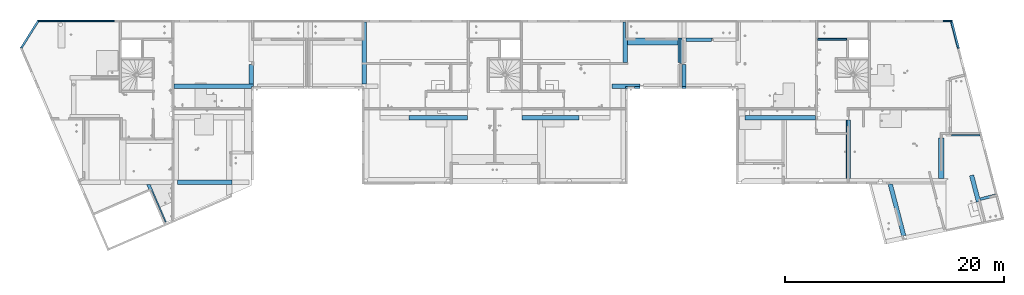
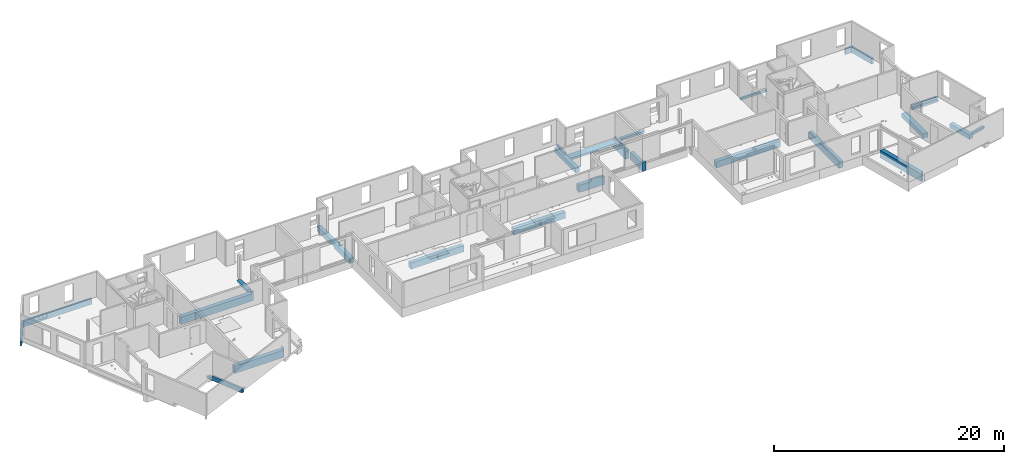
# One storey, part 2 of 34: 26 beams.
"""IFC2X3 building model written with IfcOpenShell, lengths in centimetres."""

from ifc_helpers import new_model, entity, si_unit, converted_unit, derived_unit, direction, frame, frame_2d, origin, origin_2d_with_axis, place, context, subcontext, project, spatial, polyline, rectangle, circle, outline, extrude, boolean, clip, halfspace, bounded_halfspace, faceted_brep, source, transform, mapped, material, material_list, type_object, type_shapes, element, save


model = new_model("IFC2X3")

# Units and contexts
model_context = context("Model", 3, precision=0.001, world=origin(), true_north=direction((6.12303176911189e-17, 1.0)))
body_context = subcontext(model_context, "Body", "Model", "MODEL_VIEW")
ifc_project = project(units=[si_unit("LENGTHUNIT", "METRE", prefix="CENTI"), si_unit("AREAUNIT", "SQUARE_METRE"), si_unit("VOLUMEUNIT", "CUBIC_METRE"), converted_unit("PLANEANGLEUNIT", "DEGREE", entity("IfcRatioMeasure", 0.0174532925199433), si_unit("PLANEANGLEUNIT", "RADIAN"), dimensions=[0, 0, 0, 0, 0, 0, 0]), si_unit("MASSUNIT", "GRAM", prefix="KILO"), derived_unit("MASSDENSITYUNIT", [(si_unit("MASSUNIT", "GRAM", prefix="KILO"), 1), (si_unit("LENGTHUNIT", "METRE"), -3)]), si_unit("TIMEUNIT", "SECOND"), si_unit("FREQUENCYUNIT", "HERTZ"), si_unit("THERMODYNAMICTEMPERATUREUNIT", "DEGREE_CELSIUS"), derived_unit("THERMALTRANSMITTANCEUNIT", [(si_unit("MASSUNIT", "GRAM", prefix="KILO"), 1), (si_unit("THERMODYNAMICTEMPERATUREUNIT", "KELVIN"), -1), (si_unit("TIMEUNIT", "SECOND"), -3)]), derived_unit("VOLUMETRICFLOWRATEUNIT", [(si_unit("LENGTHUNIT", "METRE"), 3), (si_unit("TIMEUNIT", "SECOND"), -1)]), si_unit("ELECTRICCURRENTUNIT", "AMPERE"), si_unit("ELECTRICVOLTAGEUNIT", "VOLT"), si_unit("POWERUNIT", "WATT"), si_unit("FORCEUNIT", "NEWTON"), si_unit("ILLUMINANCEUNIT", "LUX"), si_unit("LUMINOUSFLUXUNIT", "LUMEN"), si_unit("LUMINOUSINTENSITYUNIT", "CANDELA"), derived_unit("USERDEFINED", [(si_unit("MASSUNIT", "GRAM", prefix="KILO"), -1), (si_unit("LENGTHUNIT", "METRE"), -2), (si_unit("TIMEUNIT", "SECOND"), 3), (si_unit("LUMINOUSFLUXUNIT", "LUMEN"), 1)]), derived_unit("LINEARVELOCITYUNIT", [(si_unit("LENGTHUNIT", "METRE"), 1), (si_unit("TIMEUNIT", "SECOND"), -1)]), si_unit("PRESSUREUNIT", "PASCAL"), derived_unit("USERDEFINED", [(si_unit("LENGTHUNIT", "METRE"), -2), (si_unit("MASSUNIT", "GRAM", prefix="KILO"), 1), (si_unit("TIMEUNIT", "SECOND"), -2)])], contexts=[model_context])

# Site, building, storey
site_placement = place(None, origin())
site = spatial("IfcSite", under=ifc_project, at=site_placement, Name="Default", CompositionType="ELEMENT")
building_placement = place(site_placement, origin())
building = spatial("IfcBuilding", under=site, at=building_placement, Name="CAGE 03", CompositionType="ELEMENT")
storey_placement = place(building_placement, frame((0.0, 0.0, 340.0)))
storey = spatial("IfcBuildingStorey", under=building, at=storey_placement, Name="R+1", CompositionType="ELEMENT", Elevation=340.0)

# Beams
ifc_material_1 = material(Name="Béton, C25/30")
beam_type_1 = type_object("IfcBeamType", Name="BBGO-Poutre rect:18x62ht", PredefinedType="BEAM")
beam_1_placement = place(storey_placement, frame((3117.36582014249, 5275.66066607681, -62.0)))
element("IfcBeam", 1, at=beam_1_placement, inside=storey, type_object=beam_type_1, material=ifc_material_1, Name="BBGO-Poutre rect:18x62ht", ObjectType="BBGO-Poutre rect:18x62ht", context=body_context, shape_type="Brep", body=[
    faceted_brep([(489.0, 0.0, 62.0), (489.0, 0.0, 0.0), (489.0, 18.0, 0.0), (489.0, 18.0, 62.0), (40.0, 0.0, 62.0), (40.0, 0.0, 39.0), (40.0, 0.0, 17.0), (0.0, 0.0, 17.0), (0.0, 0.0, 0.0), (0.0, 18.0, 0.0), (0.0, 18.0, 62.0), (0.0, 9.0, 62.0), (40.0, 9.0, 62.0), (40.0, 9.0, 17.0), (0.0, 9.0, 17.0)], [[[0, 1, 2, 3]], [[1, 0, 4, 5, 6, 7, 8]], [[2, 1, 8, 9]], [[3, 2, 9, 10]], [[0, 3, 10, 11, 12, 4]], [[13, 12, 11, 14]], [[12, 13, 6, 5, 4]], [[13, 14, 7, 6]], [[10, 9, 8, 7, 14, 11]]]),
])
beam_2_placement = place(storey_placement, frame((2747.18514760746, 5035.35608984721, -62.0), z_axis=(0.0, 0.0, 1.0), x_axis=(0.531791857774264, 0.846875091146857, 0.0)))
element("IfcBeam", 2, at=beam_2_placement, inside=storey, type_object=beam_type_1, material=ifc_material_1, Name="BBGO-Poutre rect:18x62ht", ObjectType="BBGO-Poutre rect:18x62ht", context=body_context, shape_type="Brep", body=[
    faceted_brep([(304.406446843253, -17.0403410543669, 62.0), (304.406446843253, -17.0403410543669, 0.0), (304.406446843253, 0.959658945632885, 0.0), (304.406446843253, 0.959658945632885, 62.0), (294.454865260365, -17.0403410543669, 62.0), (10.7004146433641, -17.0403410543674, 62.0), (10.7004146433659, -17.0403410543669, 39.0), (12.831279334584, -17.0403410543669, 39.0), (12.8312793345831, -17.0403410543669, 0.0), (294.454865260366, -17.0403410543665, 0.0), (1.52825065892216, 0.959658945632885, 0.0), (1.52825065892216, 0.959658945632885, 62.0), (23.0603727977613, 0.959658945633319, 62.0), (11.8134355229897, -15.4194313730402, 62.0), (11.8134355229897, -15.4194313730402, 39.0)], [[[0, 1, 2, 3]], [[1, 0, 4, 5, 6, 7, 8, 9]], [[2, 1, 9, 8, 10]], [[3, 2, 10, 11, 12]], [[0, 3, 12, 11, 13, 5, 4]], [[5, 13, 14, 6]], [[8, 7, 14, 13, 11, 10]], [[14, 7, 6]]]),
])
beam_3_placement = place(storey_placement, frame((2908.25330623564, 5275.66066607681, -62.0)))
element("IfcBeam", 3, at=beam_3_placement, inside=storey, type_object=beam_type_1, material=ifc_material_1, Name="BBGO-Poutre rect:18x62ht", ObjectType="BBGO-Poutre rect:18x62ht", context=body_context, shape_type="Brep", body=[
    faceted_brep([(9.95158158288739, 0.0, 62.0), (9.95158158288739, 0.0, 39.0), (9.95158158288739, 0.0, 0.0), (209.112513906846, 0.0, 0.0), (209.112513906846, 0.0, 17.0), (187.112513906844, 0.0, 17.0), (169.112513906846, 0.0, 17.0), (169.112513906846, 0.0, 62.0), (0.0, 18.0, 0.0), (209.112513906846, 18.0, 0.0), (15.2437516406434, 8.42774656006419, 0.0), (0.0, 18.0, 62.0), (21.2546102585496, 18.0, 62.0), (209.112513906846, 18.0, 62.0), (15.2437516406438, 8.42774656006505, 62.0), (169.112513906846, 9.0, 62.0), (209.112513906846, 9.0, 62.0), (169.112513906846, 9.0, 17.0), (209.112513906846, 9.0, 17.0)], [[[0, 1, 2, 3, 4, 5, 6, 7]], [[8, 9, 3, 2, 10]], [[9, 8, 11, 12, 13]], [[13, 12, 11, 14, 0, 7, 15, 16]], [[10, 14, 11, 8]], [[14, 10, 2, 1, 0]], [[15, 17, 18, 16]], [[18, 17, 6, 5, 4]], [[17, 15, 7, 6]], [[3, 9, 13, 16, 18, 4]]]),
])
beam_4_placement = place(storey_placement, frame((11167.3658201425, 5284.66066607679, 0.0)))
element("IfcBeam", 4, at=beam_4_placement, inside=storey, type_object=beam_type_1, material=ifc_material_1, Name="BBGO-Poutre rect:18x62ht", ObjectType="BBGO-Poutre rect:18x62ht", context=body_context, shape_type="SweptSolid", body=[
    extrude(rectangle(XDim=62.0, YDim=17.9999999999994, at=frame_2d((0.0, 4.33431068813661e-13), x_axis=(1.0, 0.0))), frame((9.0, 0.0, -31.0), z_axis=(1.0, 0.0, 0.0), x_axis=(0.0, 0.0, -1.0)), (0.0, 0.0, 1.0), 77.4550760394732),
])
beam_5_placement = place(storey_placement, frame((11245.1129463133, 5291.38654886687, 0.0), z_axis=(0.0, 0.0, 1.0), x_axis=(0.252679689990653, -0.967549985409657, 0.0)))
element("IfcBeam", 5, at=beam_5_placement, inside=storey, type_object=beam_type_1, material=ifc_material_1, Name="BBGO-Poutre rect:18x62ht", ObjectType="BBGO-Poutre rect:18x62ht", context=body_context, shape_type="Clipping", body=[
    clip(clip(clip(extrude(rectangle(XDim=62.0, YDim=17.9999999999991, at=frame_2d((0.0, 8.38440428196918e-13), x_axis=(1.0, 0.0))), frame((0.0, 0.0, -31.0), z_axis=(1.0, 0.0, 0.0), x_axis=(0.0, 0.0, -1.0)), (0.0, 0.0, 1.0), 265.102582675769), bounded_halfspace(frame((17.4158997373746, 4.45176558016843, -31.0), z_axis=(-0.967549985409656, 0.252679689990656, 0.0), x_axis=(0.0, 0.0, -1.0)), False, frame((0.0, 0.0, -31.0), z_axis=(1.0, 0.0, 0.0), x_axis=(0.0, 0.0, -1.0)), polyline([(-31.0, 4.45176558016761), (31.0, 4.45176558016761), (31.0, -9.0), (-8.0, -9.0), (-31.0, -9.0), (-31.0, 4.45176558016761)]))), bounded_halfspace(frame((17.4158997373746, 4.45176558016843, 0.0), z_axis=(-0.252679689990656, -0.967549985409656, 0.0), x_axis=(0.0, 0.0, -1.0)), False, frame((0.0, 0.0, -31.0), z_axis=(1.0, 0.0, 0.0), x_axis=(0.0, 0.0, -1.0)), polyline([(31.0, 4.45176558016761), (-31.0, 4.45176558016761), (-31.0, 9.0), (31.0, 9.0), (31.0, 4.45176558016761)]))), halfspace(frame((317.12043482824, 208.184477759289, -395.0), z_axis=(0.967549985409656, -0.252679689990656, 0.0), x_axis=(-0.252679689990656, -0.967549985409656, 0.0)), False)),
])
ifc_material_2 = material(Name="<Unnamed>")
ifc_material_list = material_list([ifc_material_1, ifc_material_2])
beam_type_2 = type_object("IfcBeamType", Name="40x80ht", PredefinedType="BEAM", material=ifc_material_list)
beam_6_placement = place(storey_placement, frame((5870.36582014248, 4708.6606660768, -80.0), z_axis=(0.0, 0.0, 1.0), x_axis=(0.0, 1.0, 0.0)))
element("IfcBeam", 6, at=beam_6_placement, inside=storey, type_object=beam_type_2, material=ifc_material_1, Name="BBGO-Poutre rect:40x80ht", ObjectType="BBGO-Poutre rect:40x80ht", context=body_context, shape_type="Brep", body=[
    faceted_brep([(0.0, 0.0, 0.0), (0.0, -40.0, 0.0), (0.0, -40.0, 57.0), (0.0, -35.0, 57.0), (0.0, 0.0, 57.0), (567.0, -40.0, 0.0), (567.0, -40.0, 57.0), (276.074216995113, -40.0, 0.0), (276.074216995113, -40.0, 14.0), (348.074216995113, -40.0, 14.0), (348.074216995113, -40.0, 0.0), (567.0, 0.0, 0.0), (348.074216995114, 0.0, 0.0), (567.0, 0.0, 57.0), (567.0, 0.0, 55.0), (567.0, 0.0, 35.0), (348.074216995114, 0.0, 14.0), (276.074216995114, 0.0, 14.0), (276.074216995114, 0.0, 0.0), (355.0, 0.0, 57.0), (420.0, 0.0, 57.0)], [[[0, 1, 2, 3, 4]], [[5, 6, 2, 1, 7, 8, 9, 10]], [[11, 5, 10, 12]], [[13, 14, 15, 11, 12, 16, 17, 18, 0, 4, 19, 20]], [[5, 11, 15, 14, 13, 6]], [[2, 6, 13, 20, 19, 4, 3]], [[16, 9, 8, 17]], [[17, 8, 7, 18]], [[9, 16, 12, 10]], [[1, 0, 18, 7]]]),
])
beam_7_placement = place(storey_placement, frame((10683.7671473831, 3821.66066607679, 0.0), z_axis=(0.0, 0.0, 1.0), x_axis=(0.252679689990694, -0.967549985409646, 0.0)))
element("IfcBeam", 7, at=beam_7_placement, inside=storey, type_object=beam_type_2, material=ifc_material_1, Name="BBGO-Poutre rect:40x80ht", ObjectType="BBGO-Poutre rect:40x80ht", context=body_context, shape_type="Clipping", body=[
    clip(clip(clip(extrude(rectangle(XDim=80.0, YDim=40.0000000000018, at=frame_2d((0.0, -8.93507490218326e-13), x_axis=(1.0, 0.0))), frame((20.6153754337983, 0.0, -40.0), z_axis=(1.0, 0.0, 0.0), x_axis=(0.0, 0.0, -1.0)), (0.0, 0.0, 1.0), 513.883798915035), bounded_halfspace(frame((534.499174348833, 0.0, 0.0), z_axis=(0.0521672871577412, 0.998638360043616, 0.0), x_axis=(0.998638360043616, -0.0521672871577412, 0.0)), False, frame((20.6153754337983, 0.0, -40.0), z_axis=(1.0, 0.0, 0.0), x_axis=(0.0, 0.0, -1.0)), polyline([(40.0, 1.04334574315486), (-40.0, 1.04334574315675), (-40.0, 0.0), (40.0, 0.0), (40.0, 1.04334574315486)]))), bounded_halfspace(frame((535.381387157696, 400.270220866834, -80.0), z_axis=(0.998638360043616, -0.0521672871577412, 0.0), x_axis=(-0.0521672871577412, -0.998638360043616, 0.0)), False, frame((20.6153754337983, 0.0, -40.0), z_axis=(1.0, 0.0, 0.0), x_axis=(0.0, 0.0, -1.0)), polyline([(-40.0, 1.04334574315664), (40.0, 1.04334574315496), (40.0, 20.0), (-12.0, 20.0), (-40.0, 20.0), (-40.0, 1.04334574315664)]))), halfspace(frame((157.249539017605, 503.19354589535, 0.0), z_axis=(-0.967549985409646, 0.252679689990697, 0.0), x_axis=(-0.252679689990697, -0.967549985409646, 0.0)), False)),
])
beam_type_3 = type_object("IfcBeamType", Name="BBGO-Poutre rect:40x100ht", PredefinedType="BEAM")
beam_8_placement = place(storey_placement, frame((4184.86582014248, 3791.66066607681, -100.0)))
element("IfcBeam", 8, at=beam_8_placement, inside=storey, type_object=beam_type_3, material=ifc_material_1, Name="BBGO-Poutre rect:40x100ht", ObjectType="BBGO-Poutre rect:40x100ht", context=body_context, shape_type="Brep", body=[
    faceted_brep([(496.499999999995, 40.0, 100.0), (496.499999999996, 0.0, 100.0), (496.499999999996, 0.0, 75.0), (496.499999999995, 40.0, 75.0), (0.0, 0.0, 0.0), (496.499999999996, 0.0, 0.0), (496.499999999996, 0.0, 55.0), (495.499999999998, 0.0, 55.0), (495.499999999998, 0.0, 75.0), (495.499999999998, 0.0, 100.0), (495.499999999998, 0.0, 77.0), (445.499999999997, 0.0, 77.0), (0.0, 0.0, 77.0), (496.499999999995, 40.0, 0.0), (0.0, 40.0, 0.0), (0.0, 40.0, 77.0), (9.49999999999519, 40.0, 77.0), (445.499999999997, 40.0, 77.0), (495.499999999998, 40.0, 77.0), (495.499999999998, 40.0, 100.0), (495.499999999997, 40.0, 75.0), (495.499999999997, 40.0, 55.0), (496.499999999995, 40.0, 55.0)], [[[0, 1, 2, 3]], [[4, 5, 6, 7, 8, 2, 1, 9, 10, 11, 12]], [[13, 5, 4, 14]], [[13, 14, 15, 16, 17, 18, 19, 0, 3, 20, 21, 22]], [[1, 0, 19, 9]], [[14, 4, 12, 15]], [[12, 11, 10, 18, 17, 16, 15]], [[18, 10, 9, 19]], [[21, 7, 6, 22]], [[8, 20, 3, 2]], [[7, 21, 20, 8]], [[5, 13, 22, 6]]]),
])
beam_9_placement = place(storey_placement, frame((4152.36582014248, 4668.66066607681, -100.0)))
element("IfcBeam", 9, at=beam_9_placement, inside=storey, type_object=beam_type_3, material=ifc_material_1, Name="BBGO-Poutre rect:40x100ht", ObjectType="BBGO-Poutre rect:40x100ht", context=body_context, shape_type="Brep", body=[
    faceted_brep([(708.0, 0.0, 100.0), (708.0, 0.0, 77.0), (646.0, 0.0, 77.0), (0.0, 0.0, 77.0), (0.0, 0.0, 0.0), (646.0, 0.0, 0.0), (726.0, 0.0, 0.0), (726.0, 0.0, 100.0), (726.0, 40.0, 0.0), (0.0, 40.0, 0.0), (726.0, 40.0, 77.0), (0.0, 40.0, 77.0), (726.0, 18.0, 100.0), (708.0, 18.0, 100.0), (726.0, 18.0, 77.0), (708.0, 18.0, 77.0)], [[[0, 1, 2, 3, 4, 5, 6, 7]], [[8, 6, 5, 4, 9]], [[10, 8, 9, 11]], [[7, 12, 13, 0]], [[12, 7, 6, 8, 10, 14]], [[1, 15, 14, 10, 11, 3, 2]], [[15, 13, 12, 14]], [[13, 15, 1, 0]], [[4, 3, 11, 9]]]),
])
beam_10_placement = place(storey_placement, frame((8149.36582014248, 4668.6606660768, -100.0)))
element("IfcBeam", 10, at=beam_10_placement, inside=storey, type_object=beam_type_3, material=ifc_material_1, Name="BBGO-Poutre rect:40x100ht", ObjectType="BBGO-Poutre rect:40x100ht", context=body_context, shape_type="Brep", body=[
    faceted_brep([(255.0, 0.0, 0.0), (255.0, 0.0, 88.0), (208.0, 0.0, 88.0), (208.0, 0.0, 100.0), (143.0, 0.0, 100.0), (125.0, 0.0, 100.0), (125.0, 0.0, 77.0), (83.0, 0.0, 77.0), (0.0, 0.0, 77.0), (0.0, 0.0, 0.0), (83.0, 0.0, 0.0), (143.0, 0.0, 0.0), (0.0, 40.0, 0.0), (255.0, 40.0, 0.0), (0.0, 40.0, 77.0), (255.0, 40.0, 77.0), (208.0, 18.0, 100.0), (200.0, 18.0, 100.0), (143.0, 18.0, 100.0), (125.0, 18.0, 100.0), (255.0, 18.0, 77.0), (255.0, 18.0, 88.0), (125.0, 18.0, 77.0), (208.0, 18.0, 88.0)], [[[0, 1, 2, 3, 4, 5, 6, 7, 8, 9, 10, 11]], [[0, 11, 10, 9, 12, 13]], [[13, 12, 14, 15]], [[5, 4, 3, 16, 17, 18, 19]], [[1, 0, 13, 15, 20, 21]], [[9, 8, 14, 12]], [[6, 22, 20, 15, 14, 8, 7]], [[22, 19, 18, 17, 16, 23, 21, 20]], [[19, 22, 6, 5]], [[3, 2, 23, 16]], [[2, 1, 21, 23]]]),
])
beam_type_4 = type_object("IfcBeamType", Name="BBGO-Poutre rect:18x45ht", PredefinedType="BEAM")
beam_11_placement = place(storey_placement, frame((10019.3658201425, 5119.66066607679, 0.0)))
element("IfcBeam", 11, at=beam_11_placement, inside=storey, type_object=beam_type_4, material=ifc_material_1, Name="BBGO-Poutre rect:18x45ht", ObjectType="BBGO-Poutre rect:18x45ht", context=body_context, shape_type="SweptSolid", body=[
    extrude(rectangle(XDim=22.0000000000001, YDim=18.0000000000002, at=frame_2d((2.66453525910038e-14, 8.65973959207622e-13), x_axis=(1.0, 0.0))), frame((9.0, 0.0, -34.0), z_axis=(1.0, 0.0, 0.0), x_axis=(0.0, 0.0, -1.0)), (0.0, 0.0, 1.0), 264.000000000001),
])
beam_type_5 = type_object("IfcBeamType", Name="BBGO-Poutre rect:50x70ht", PredefinedType="BEAM")
beam_12_placement = place(storey_placement, frame((11155.8658201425, 3821.66066607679, 0.0), z_axis=(0.0, 0.0, 1.0), x_axis=(0.0, 1.0, 0.0)))
element("IfcBeam", 12, at=beam_12_placement, inside=storey, type_object=beam_type_5, material=ifc_material_1, Name="BBGO-Poutre rect:50x70ht", ObjectType="BBGO-Poutre rect:50x70ht", context=body_context, shape_type="SweptSolid", body=[
    extrude(rectangle(XDim=47.0000000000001, YDim=49.999999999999, at=origin_2d_with_axis()), frame((25.0, 0.0, -46.5000000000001), z_axis=(1.0, 0.0, 0.0), x_axis=(0.0, 0.0, -1.0)), (0.0, 0.0, 1.0), 369.0),
])
beam_type_6 = type_object("IfcBeamType", Name="BBGO-Poutre rect:25x45ht", PredefinedType="BEAM")
beam_13_placement = place(storey_placement, frame((11491.202088, 3652.53878289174, 0.0), z_axis=(0.0, 0.0, 1.0), x_axis=(0.967549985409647, 0.252679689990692, 0.0)))
element("IfcBeam", 13, at=beam_13_placement, inside=storey, type_object=beam_type_6, material=ifc_material_1, Name="BBGO-Poutre rect:25x45ht", ObjectType="BBGO-Poutre rect:25x45ht", context=body_context, shape_type="SweptSolid", body=[
    extrude(rectangle(XDim=22.0000000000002, YDim=25.0000000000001, at=frame_2d((0.0, 4.2810199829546e-13), x_axis=(1.0, 0.0))), frame((20.0, 0.0, -34.0), z_axis=(1.0, 0.0, 0.0), x_axis=(0.0, 0.0, -1.0)), (0.0, 0.0, 1.0), 147.000000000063),
])
beam_type_7 = type_object("IfcBeamType", Name="BBGO-Poutre rect:40x70ht", PredefinedType="BEAM")
beam_14_placement = place(storey_placement, frame((8252.36582014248, 4904.6606660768, -70.0), z_axis=(0.0, 0.0, 1.0), x_axis=(0.0, 1.0, 0.0)))
element("IfcBeam", 14, at=beam_14_placement, inside=storey, type_object=beam_type_7, material=ifc_material_1, Name="BBGO-Poutre rect:40x70ht", ObjectType="BBGO-Poutre rect:40x70ht", context=body_context, shape_type="Brep", body=[
    faceted_brep([(371.0, -40.0, 0.0), (371.0, -40.0, 25.0), (371.0, -40.0, 45.0), (371.0, -40.0, 70.0), (224.0, -40.0, 70.0), (224.0, -40.0, 47.0), (159.0, -40.0, 47.0), (0.0, -40.0, 47.0), (0.0, -40.0, 0.0), (371.0, 0.0, 0.0), (0.0, 0.0, 0.0), (0.0, 0.0, 47.0), (371.0, 0.0, 47.0), (371.0, -22.0, 70.0), (224.0, -22.0, 70.0), (371.0, -22.0, 47.0), (224.0, -22.0, 47.0)], [[[0, 1, 2, 3, 4, 5, 6, 7, 8]], [[9, 0, 8, 10]], [[9, 10, 11, 12]], [[4, 3, 13, 14]], [[3, 2, 1, 0, 9, 12, 15, 13]], [[10, 8, 7, 11]], [[16, 15, 12, 11, 7, 6, 5]], [[14, 16, 5, 4]], [[15, 16, 14, 13]]]),
])
beam_15_placement = place(storey_placement, frame((11430.6853022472, 3884.26700439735, 0.0), z_axis=(0.0, 0.0, 1.0), x_axis=(0.252679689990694, -0.967549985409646, 0.0)))
element("IfcBeam", 15, at=beam_15_placement, inside=storey, type_object=beam_type_7, material=ifc_material_1, Name="BBGO-Poutre rect:40x70ht", ObjectType="BBGO-Poutre rect:40x70ht", context=body_context, shape_type="SweptSolid", body=[
    extrude(rectangle(XDim=47.0000000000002, YDim=40.0000000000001, at=frame_2d((-2.66453525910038e-14, -1.73017156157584e-12), x_axis=(1.0, 0.0))), frame((9.0, 0.0, -46.5000000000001), z_axis=(1.0, 0.0, 0.0), x_axis=(0.0, 0.0, -1.0)), (0.0, 0.0, 1.0), 247.500000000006),
])
beam_type_8 = type_object("IfcBeamType", Name="BBGO-Poutre rect:65x45ht", PredefinedType="BEAM")
beam_16_placement = place(storey_placement, frame((8292.36582014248, 5063.6606660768, -45.0)))
element("IfcBeam", 16, at=beam_16_placement, inside=storey, type_object=beam_type_8, material=ifc_material_1, Name="BBGO-Poutre rect:65x45ht", ObjectType="BBGO-Poutre rect:65x45ht", context=body_context, shape_type="Brep", body=[
    faceted_brep([(399.0, 0.0, 0.0), (399.0, 0.0, 20.0), (414.0, 0.0, 20.0), (414.0, 0.0, 0.0), (460.0, 0.0, 0.0), (460.0, 0.0, 22.0), (0.0, 0.0, 22.0), (0.0, 0.0, 0.0), (460.0, 65.0, 0.0), (414.0, 65.0, 0.0), (399.0, 65.0, 20.0), (399.0, 65.0, 0.0), (0.0, 65.0, 0.0), (0.0, 65.0, 20.0), (0.0, 65.0, 22.0), (460.0, 65.0, 22.0), (414.0, 65.0, 20.0)], [[[0, 1, 2, 3, 4, 5, 6, 7]], [[8, 4, 3, 9]], [[10, 11, 12, 13, 14, 15, 8, 9, 16]], [[12, 7, 6, 14, 13]], [[4, 8, 15, 5]], [[10, 1, 0, 11]], [[2, 16, 9, 3]], [[1, 10, 16, 2]], [[11, 0, 7, 12]], [[6, 5, 15, 14]]]),
])
beam_type_9 = type_object("IfcBeamType", Name="BBGO-Poutre rect:40x90ht", PredefinedType="BEAM")
beam_17_placement = place(storey_placement, frame((6296.36582014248, 4381.6606660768, -90.0)))
element("IfcBeam", 17, at=beam_17_placement, inside=storey, type_object=beam_type_9, material=ifc_material_1, Name="BBGO-Poutre rect:40x90ht", ObjectType="BBGO-Poutre rect:40x90ht", context=body_context, shape_type="Brep", body=[
    faceted_brep([(275.0, 0.0, 58.0), (275.0, 0.0, 0.0), (325.0, 0.0, 0.0), (395.0, 0.0, 0.0), (535.0, 0.0, 0.0), (535.0, 0.0, 67.0), (395.0, 0.0, 67.0), (325.0, 0.0, 67.0), (0.0, 0.0, 67.0), (0.0, 0.0, 0.0), (265.0, 0.0, 0.0), (265.0, 0.0, 58.0), (275.0, 40.0, 0.0), (535.0, 40.0, 0.0), (275.0, 40.0, 58.0), (265.0, 40.0, 58.0), (265.0, 40.0, 0.0), (0.0, 40.0, 0.0), (0.0, 40.0, 67.0), (535.0, 40.0, 67.0), (535.0, 40.0, 60.0), (535.0, 18.0, 67.0)], [[[0, 1, 2, 3, 4, 5, 6, 7, 8, 9, 10, 11]], [[1, 12, 13, 4, 3, 2]], [[12, 14, 15, 16, 17, 18, 19, 20, 13]], [[0, 14, 12, 1]], [[15, 11, 10, 16]], [[14, 0, 11, 15]], [[16, 10, 9, 17]], [[17, 9, 8, 18]], [[4, 13, 20, 19, 21, 5]], [[8, 7, 6, 5, 21, 19, 18]]]),
])
beam_18_placement = place(storey_placement, frame((7331.36582014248, 4381.6606660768, -90.0)))
element("IfcBeam", 18, at=beam_18_placement, inside=storey, type_object=beam_type_9, material=ifc_material_1, Name="BBGO-Poutre rect:40x90ht", ObjectType="BBGO-Poutre rect:40x90ht", context=body_context, shape_type="Brep", body=[
    faceted_brep([(0.0, 0.0, 0.0), (140.0, 0.0, 0.0), (210.0, 0.0, 0.0), (260.0, 0.0, 0.0), (260.0, 0.0, 58.0), (270.0, 0.0, 58.0), (270.0, 0.0, 0.0), (520.0, 0.0, 0.0), (520.0, 0.0, 67.0), (210.0, 0.0, 67.0), (140.0, 0.0, 67.0), (0.0, 0.0, 67.0), (0.0, 40.0, 0.0), (260.0, 40.0, 0.0), (0.0, 40.0, 60.0), (0.0, 40.0, 67.0), (520.0, 40.0, 67.0), (520.0, 40.0, 0.0), (270.0, 40.0, 0.0), (270.0, 40.0, 58.0), (260.0, 40.0, 58.0), (0.0, 18.0, 67.0)], [[[0, 1, 2, 3, 4, 5, 6, 7, 8, 9, 10, 11]], [[0, 12, 13, 3, 2, 1]], [[13, 12, 14, 15, 16, 17, 18, 19, 20]], [[7, 17, 16, 8]], [[20, 4, 3, 13]], [[5, 19, 18, 6]], [[4, 20, 19, 5]], [[12, 0, 11, 21, 15, 14]], [[7, 6, 18, 17]], [[11, 10, 9, 8, 16, 15, 21]]]),
])
beam_19_placement = place(storey_placement, frame((9324.36582014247, 4401.66066607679, 0.0)))
element("IfcBeam", 19, at=beam_19_placement, inside=storey, type_object=beam_type_9, material=ifc_material_1, Name="BBGO-Poutre rect:40x90ht", ObjectType="BBGO-Poutre rect:40x90ht", context=body_context, shape_type="SweptSolid", body=[
    extrude(rectangle(XDim=67.0000000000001, YDim=40.0000000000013, at=frame_2d((0.0, 4.33431068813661e-13), x_axis=(1.0, 0.0))), frame((40.0, 0.0, -56.5000000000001), z_axis=(1.0, 0.0, 0.0), x_axis=(0.0, 0.0, -1.0)), (0.0, 0.0, 1.0), 646.000000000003),
])
beam_20_placement = place(storey_placement, frame((10306.3658201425, 3821.66066607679, 0.0), z_axis=(0.0, 0.0, 1.0), x_axis=(0.0, 1.0, 0.0)))
element("IfcBeam", 20, at=beam_20_placement, inside=storey, type_object=beam_type_9, material=ifc_material_1, Name="BBGO-Poutre rect:40x90ht", ObjectType="BBGO-Poutre rect:40x90ht", context=body_context, shape_type="CSG", body=[
    boolean("DIFFERENCE", boolean("DIFFERENCE", extrude(outline(polyline([(-23.0, -42.3333333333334), (17.0, -42.3333333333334), (17.0, 17.6666666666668), (6.0, 17.6666666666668), (6.0, 24.6666666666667), (-23.0, 24.6666666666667), (-23.0, -42.3333333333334)])), frame((25.0, 3.0, -47.6666666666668), z_axis=(1.0, 0.0, 0.0), x_axis=(0.0, 1.0, 0.0)), (0.0, 0.0, 1.0), 535.000000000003), extrude(rectangle(XDim=12.0, YDim=38.0, at=frame_2d((0.0, 0.0), x_axis=(0.0, 1.0))), frame((538.48193062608, 20.0, -73.8494765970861), z_axis=(0.0, -1.0, 0.0), x_axis=(-1.0, 0.0, 0.0)), (0.0, 0.0, 1.0), 40.0000000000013)), extrude(circle(Radius=5.0, at=origin_2d_with_axis()), frame((497.0, 20.0, -65.0), z_axis=(0.0, -1.0, 0.0), x_axis=(-1.0, 0.0, 0.0)), (0.0, 0.0, 1.0), 40.0000000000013)),
])
beam_type_10 = type_object("IfcBeamType", Name="BBGO-Poutre rect:35x100ht", PredefinedType="BEAM")
beam_21_placement = place(storey_placement, frame((8789.36582014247, 4668.66066607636, -100.0), z_axis=(0.0, 0.0, 1.0), x_axis=(0.0, 1.0, 0.0)))
element("IfcBeam", 21, at=beam_21_placement, inside=storey, type_object=beam_type_10, material=ifc_material_1, Name="BBGO-Poutre rect:35x100ht", ObjectType="BBGO-Poutre rect:35x100ht", context=body_context, shape_type="Brep", body=[
    faceted_brep([(0.0, -35.0, 100.0), (0.0, 0.0, 100.0), (0.0, 0.0, 0.0), (0.0, -35.0, 0.0), (0.0, -35.0, 80.0), (0.0, -35.0, 99.5899561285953), (40.0, -35.0, 0.0), (218.0, -35.0, 0.0), (218.0, -35.0, 77.0), (40.0, -35.0, 77.0), (18.0, -35.0, 77.0), (18.0, -35.0, 100.0), (218.0, 0.0, 0.0), (18.0, 0.0, 100.0), (18.0, 0.0, 77.0), (218.0, 0.0, 77.0)], [[[0, 1, 2, 3, 4, 5]], [[0, 5, 4, 3, 6, 7, 8, 9, 10, 11]], [[3, 2, 12, 7, 6]], [[2, 1, 13, 14, 15, 12]], [[1, 0, 11, 13]], [[8, 7, 12, 15]], [[14, 10, 9, 8, 15]], [[10, 14, 13, 11]]]),
])
beam_22_placement = place(storey_placement, frame((8752.36582014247, 4895.66066607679, -100.0), z_axis=(0.0, 0.0, 1.0), x_axis=(0.0, 1.0, 0.0)))
element("IfcBeam", 22, at=beam_22_placement, inside=storey, type_object=beam_type_10, material=ifc_material_1, Name="BBGO-Poutre rect:35x100ht", ObjectType="BBGO-Poutre rect:35x100ht", context=body_context, shape_type="Brep", body=[
    faceted_brep([(233.0, -35.0, 0.0), (233.0, 0.0, 0.0), (233.0, 0.0, 55.0), (233.0, 0.0, 77.0), (233.0, -17.0, 77.0), (233.0, -17.0, 100.0), (233.0, -35.0, 100.0), (233.0, -35.0, 75.0), (233.0, -35.0, 55.0), (0.0, -35.0, 77.0), (0.0, -35.0, 100.0), (0.0, -17.0, 100.0), (0.0, -17.0, 77.0), (9.0, 0.0, 0.0), (9.0, 0.0, 77.0), (168.0, 0.0, 77.0), (9.0, -35.0, 0.0), (9.0, -35.0, 77.0), (9.0, -17.0, 77.0)], [[[0, 1, 2, 3, 4, 5, 6, 7, 8]], [[9, 10, 11, 12]], [[13, 14, 15, 3, 2, 1]], [[1, 0, 16, 13]], [[0, 8, 7, 6, 10, 9, 17, 16]], [[10, 6, 5, 11]], [[14, 13, 16, 17, 18]], [[17, 9, 12, 18]], [[18, 4, 3, 15, 14]], [[4, 18, 12, 11, 5]]]),
])
beam_type_11 = type_object("IfcBeamType", Name="BBGO-Poutre rect:30x45ht", PredefinedType="BEAM")
beam_23_placement = place(storey_placement, frame((8824.36582014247, 5098.66066607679, -45.0)))
element("IfcBeam", 23, at=beam_23_placement, inside=storey, type_object=beam_type_11, material=ifc_material_1, Name="BBGO-Poutre rect:30x45ht", ObjectType="BBGO-Poutre rect:30x45ht", context=body_context, shape_type="Brep", body=[
    faceted_brep([(0.0, 0.0, 0.0), (24.0, 0.0, 0.0), (24.0, 0.0, 20.0), (34.0, 0.0, 20.0), (34.0, 0.0, 0.0), (234.0, 0.0, 0.0), (234.0, 0.0, 22.0), (0.0, 0.0, 22.0), (34.0, 30.0, 0.0), (234.0, 30.0, 0.0), (243.0, 30.0, 0.0), (243.0, 21.0, 0.0), (234.0, 21.0, 0.0), (24.0, 30.0, 0.0), (0.0, 30.0, 0.0), (0.0, 30.0, 22.0), (243.0, 30.0, 22.0), (34.0, 30.0, 20.0), (24.0, 30.0, 20.0), (234.0, 21.0, 22.0), (243.0, 21.0, 22.0)], [[[0, 1, 2, 3, 4, 5, 6, 7]], [[4, 8, 9, 10, 11, 12, 5]], [[13, 14, 15, 16, 10, 9, 8, 17, 18]], [[14, 0, 7, 15]], [[18, 2, 1, 13]], [[3, 17, 8, 4]], [[2, 18, 17, 3]], [[0, 14, 13, 1]], [[6, 5, 12, 19]], [[11, 10, 16, 20]], [[7, 6, 19, 20, 16, 15]], [[19, 12, 11, 20]]]),
])
beam_type_12 = type_object("IfcBeamType", Name="BBGO-Poutre rect:51x45ht", PredefinedType="BEAM")
beam_24_placement = place(storey_placement, frame((11223.3658201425, 4241.16066607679, 0.0)))
element("IfcBeam", 24, at=beam_24_placement, inside=storey, type_object=beam_type_12, material=ifc_material_1, Name="BBGO-Poutre rect:51x45ht", ObjectType="BBGO-Poutre rect:51x45ht", context=body_context, shape_type="Clipping", body=[
    clip(extrude(outline(polyline([(0.333333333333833, -16.0), (22.333333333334, -16.0), (22.3333333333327, 17.0), (-22.6666666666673, 17.0), (-22.6666666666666, -1.0), (0.333333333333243, -1.0), (0.333333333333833, -16.0)])), frame((25.0, 8.49999999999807, -22.6666666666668), z_axis=(1.0, 0.0, 0.0), x_axis=(0.0, 0.0, -1.0)), (0.0, 0.0, 1.0), 263.674780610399), halfspace(frame((141.067976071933, 557.709501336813, -395.0), z_axis=(0.967549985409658, 0.252679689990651, 0.0), x_axis=(0.252679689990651, -0.967549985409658, 0.0)), False)),
])
beam_type_13 = type_object("IfcBeamType", Name="BBGO-Poutre rect:30x50ht", PredefinedType="BEAM")
beam_25_placement = place(storey_placement, frame((3903.07716982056, 3439.67272818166, -50.0), z_axis=(0.0, 0.0, 1.0), x_axis=(-0.397106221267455, 0.917772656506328, 0.0)))
element("IfcBeam", 25, at=beam_25_placement, inside=storey, type_object=beam_type_13, material=ifc_material_1, Name="BBGO-Poutre rect:30x50ht", ObjectType="BBGO-Poutre rect:30x50ht", context=body_context, shape_type="Brep", body=[
    faceted_brep([(-60.4792015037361, -169.776599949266, 0.0), (310.064362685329, -169.776599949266, 0.0), (310.064362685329, -169.776599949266, 27.0), (-60.4792015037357, -169.776599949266, 27.0), (-60.4792015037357, -139.776599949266, 0.0), (257.520798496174, -139.776599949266, 0.0), (267.520798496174, -139.776599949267, 0.0), (323.044904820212, -139.776599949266, 0.0), (-60.4792015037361, -139.776599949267, 50.0), (257.520798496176, -139.776599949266, 50.0), (257.520798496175, -139.776599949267, 27.0), (323.044904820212, -139.776599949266, 27.0), (257.520798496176, -157.776599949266, 50.0), (-60.4792015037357, -157.776599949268, 50.0), (-60.4792015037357, -157.776599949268, 27.0), (257.520798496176, -157.776599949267, 27.0)], [[[0, 1, 2, 3]], [[0, 4, 5, 6, 7, 1]], [[4, 8, 9, 10, 11, 7, 6, 5]], [[12, 9, 8, 13]], [[14, 3, 2, 11, 10, 15]], [[15, 12, 13, 14]], [[4, 0, 3, 14, 13, 8]], [[12, 15, 10, 9]], [[1, 7, 11, 2]]]),
])
beam_type_14 = type_object("IfcBeamType", Name="40x23ht", PredefinedType="BEAM", material=ifc_material_1)
shared_shape = source(origin(), body_context, "Body", "Brep", [
    faceted_brep([(40.0, 178.0, 23.0), (40.0, 178.0, 0.0), (0.0, 178.0, 0.0), (0.0, 178.0, 23.0), (40.0, 0.0, 23.0), (0.0, 0.0, 23.0), (0.0, 0.0, 0.0), (40.0, 0.0, 0.0)], [[[0, 1, 2, 3]], [[4, 5, 6, 7]], [[1, 0, 4, 7]], [[2, 1, 7, 6]], [[3, 2, 6, 5]], [[0, 3, 5, 4]]]),
])
type_shapes(beam_type_14, [shared_shape])
beam_26_placement = place(storey_placement, frame((4838.36582014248, 4708.66066607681, -23.0)))
element("IfcBeam", 26, at=beam_26_placement, inside=storey, type_object=beam_type_14, material=ifc_material_1, Name="BBGO-Poutre rect:40x23ht", ObjectType="40x23ht", context=body_context, shape_type="MappedRepresentation", body=[
    mapped(shared_shape, transform((0.0, 0.0, 0.0), scale=1.0)),
])

save(model, "model.ifc")
